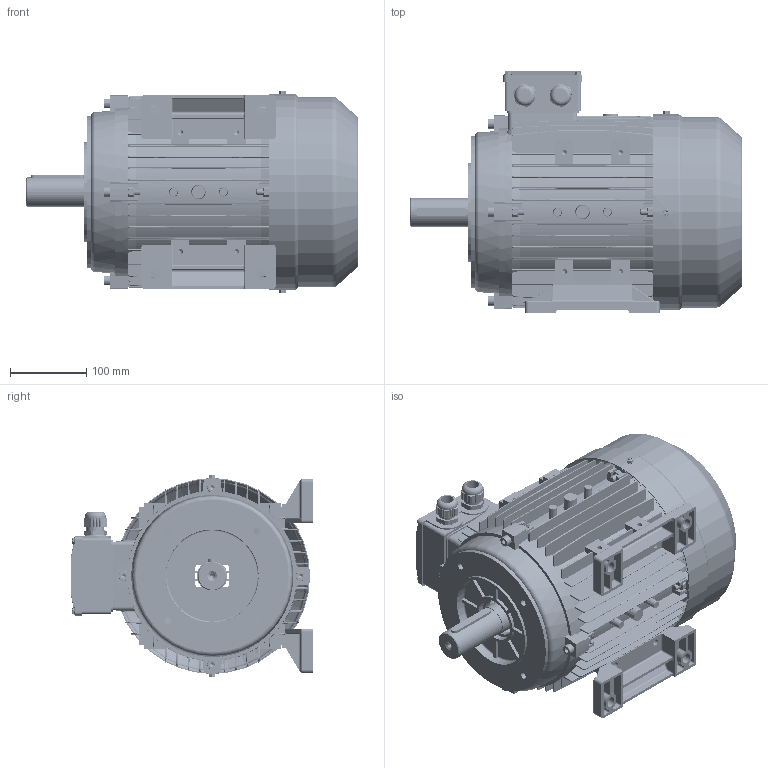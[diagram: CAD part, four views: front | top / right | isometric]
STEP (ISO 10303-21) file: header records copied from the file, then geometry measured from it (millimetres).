
FILE_DESCRIPTION (( 'STEP AP203' ), '1' );
FILE_NAME ('MSL132S assembly B34.STEP', '2017-11-26T10:23:03', ( 'user' ), ( 'china' ), 'SwSTEP 2.0', 'SolidWorks 2016', '' );
FILE_SCHEMA (( 'CONFIG_CONTROL_DESIGN' ));
Length unit declared in the file: millimetre
Products named in the file (17): MS132 綴裔瑞欶郪磁; M132傷裔B3_NonDrive; M132-Shaft drive end_DNF; M132菁褐(等謂)_S; MS132諉盄碟釱(苤)_2Holes; M132瑞欶_117; M112-132諉盄碟(苤); M132傷裔B14 ; GB-T 29.2-1988 M5鞠褒坋趼湍菜_10; MS132諉盄碟裔(苤); GB-T 70.1-2000 M8_40; M25 cable gland; GB-T 41-2000 M8; GB-T 29.2-1988 M4鞠褒坋趼湍菜_05; M132儂褲_S; MSL132S assembly B34; GB-T 5780-2000 M8_040
Assembly tree (36 placements, depth 3):
  MSL132S assembly B34
    M132儂褲_S
    M132-Shaft drive end_DNF
    M132菁褐(等謂)_S  x2
    MS132 綴裔瑞欶郪磁
      M132傷裔B3_NonDrive
      M132瑞欶_117
      GB-T 29.2-1988 M5鞠褒坋趼湍菜_10  x3
    GB-T 41-2000 M8  x8
    GB-T 70.1-2000 M8_40  x4
    M112-132諉盄碟(苤)
      MS132諉盄碟釱(苤)_2Holes
      MS132諉盄碟裔(苤)
      GB-T 29.2-1988 M4鞠褒坋趼湍菜_05  x4
      M25 cable gland  x2
    GB-T 5780-2000 M8_040  x4
    M132傷裔B14 
Bounding box: 435 x 317 x 264.6 mm (x, y, z)
Volume: 2585947.5 mm3; surface area: 1360936.3 mm2
Topology: 36 solids, 36 shells, 5760 faces, 15111 edges, 9467 vertices
Faces by surface type: plane 2422, cylinder 1498, cone 1082, bspline 604, torus 142, sphere 12
Entity records: 162286 total; most frequent: CARTESIAN_POINT 64217, ORIENTED_EDGE 21288, DIRECTION 17991, EDGE_CURVE 10644, VERTEX_POINT 6799, LINE 6155, VECTOR 6155, AXIS2_PLACEMENT_3D 5918
